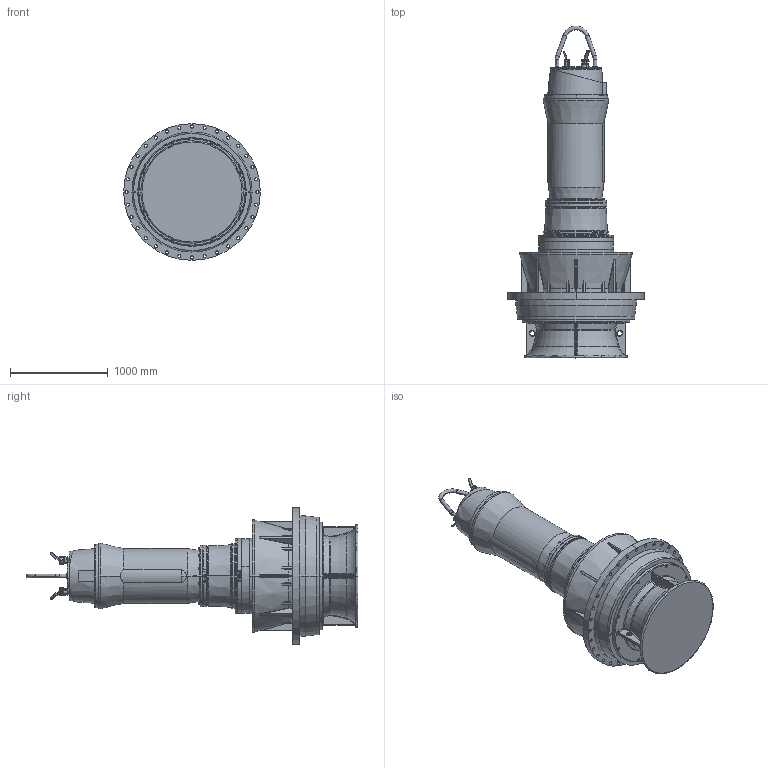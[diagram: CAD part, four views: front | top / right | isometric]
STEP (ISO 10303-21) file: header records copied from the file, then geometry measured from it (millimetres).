
FILE_DESCRIPTION (( 'STEP AP214' ), '1' );
FILE_NAME ('PE6_VUPX1000 G3_DIN_B_NG2.STEP', '2017-04-24T08:27:59', ( '' ), ( '' ), 'SwSTEP 2.0', 'SolidWorks 2017', '' );
FILE_SCHEMA (( 'AUTOMOTIVE_DESIGN' ));
Length unit declared in the file: millimetre
Products named in the file (1): PE6_VUPX1000 G3_DIN_B_NG2
Bounding box: 1400 x 3399 x 1400 mm (x, y, z)
Volume: 1415464444.3 mm3; surface area: 14563989 mm2
Topology: 4 solids, 40 shells, 3169 faces, 7616 edges, 4527 vertices
Faces by surface type: cylinder 972, plane 948, bspline 410, cone 364, torus 360, sphere 115
Entity records: 155025 total; most frequent: CARTESIAN_POINT 49555, ORIENTED_EDGE 14904, DIRECTION 14429, EDGE_CURVE 7452, AXIS2_PLACEMENT_3D 5751, VERTEX_POINT 4522, EDGE_LOOP 3496, UNCERTAINTY_MEASURE_WITH_UNIT 3175
